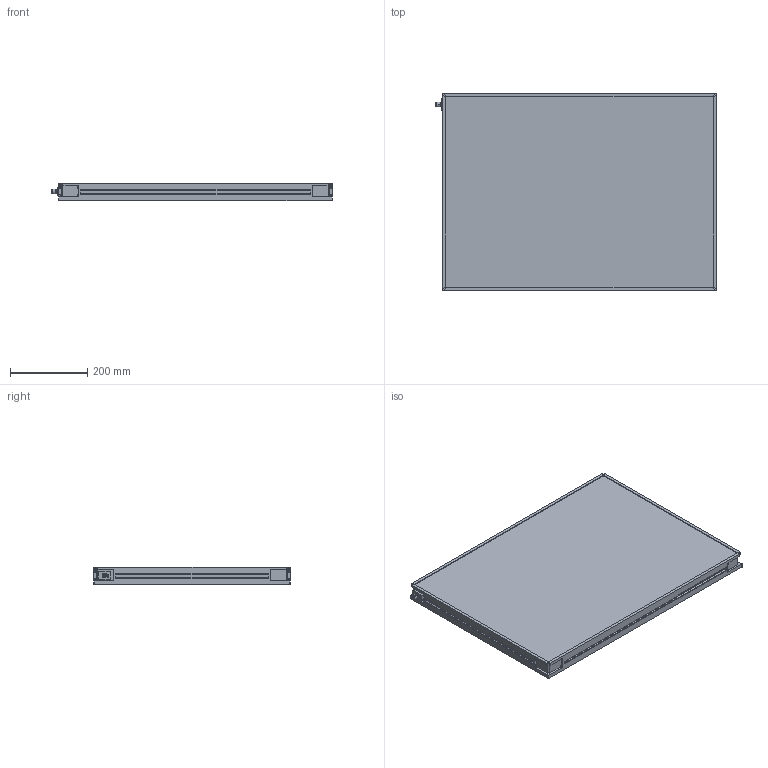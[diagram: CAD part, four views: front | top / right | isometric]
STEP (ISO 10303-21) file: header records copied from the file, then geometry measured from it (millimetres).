
FILE_DESCRIPTION (( 'STEP AP214' ), '1' );
FILE_NAME ('MBACK-xxxx-xxx-M1_CLIENT500x700.STEP', '2022-03-31T16:20:12', ( '' ), ( '' ), 'SwSTEP 2.0', 'SolidWorks 2020', '' );
FILE_SCHEMA (( 'AUTOMOTIVE_DESIGN' ));
Length unit declared in the file: millimetre
Products named in the file (1): MBACK-xxxx-xxx-M1_CLIENT500x700
Bounding box: 725.9 x 508 x 45.5 mm (x, y, z)
Volume: 14938295.6 mm3; surface area: 880699.4 mm2
Topology: 1 solids, 1 shells, 442 faces, 1144 edges, 760 vertices
Faces by surface type: plane 249, cylinder 105, bspline 80, cone 8
Entity records: 17236 total; most frequent: CARTESIAN_POINT 6699, ORIENTED_EDGE 2288, DIRECTION 1936, EDGE_CURVE 1144, VERTEX_POINT 760, VECTOR 758, LINE 758, AXIS2_PLACEMENT_3D 589
